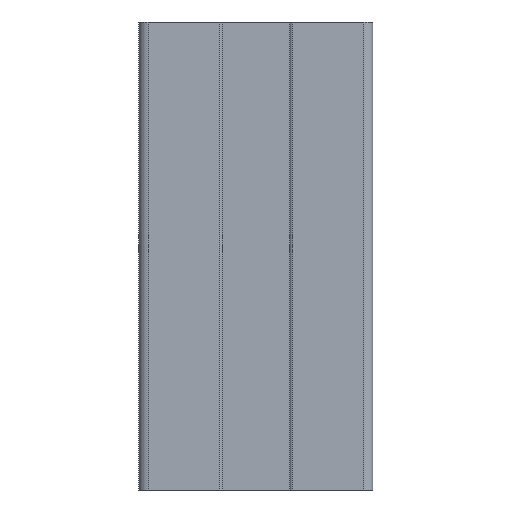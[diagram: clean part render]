
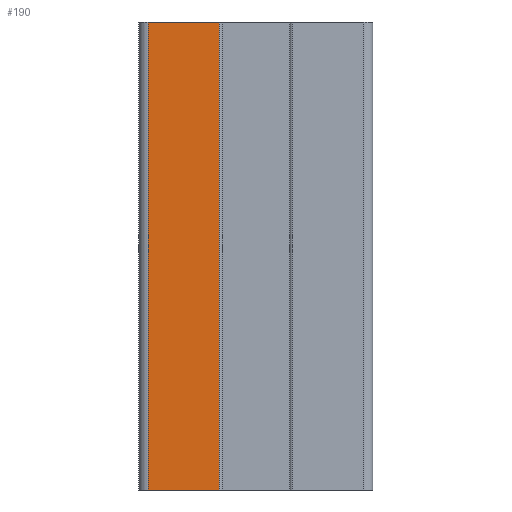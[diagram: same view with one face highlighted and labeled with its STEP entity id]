
A CAD part, left-side view. The second image highlights one B-rep face of the part: STEP entity #190.
In plain terms, the highlighted planar face has unit normal (-1, 0, 0).
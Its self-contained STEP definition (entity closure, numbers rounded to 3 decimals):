
#190=ADVANCED_FACE('',(#477),#478,.F.);
#477=FACE_OUTER_BOUND('',#870,.T.);
#478=PLANE('',#871);
#870=EDGE_LOOP('',(#1359,#1360,#1361,#1362));
#871=AXIS2_PLACEMENT_3D('',#1363,#1364,#1365);
#1359=ORIENTED_EDGE('',*,*,#2514,.T.);
#1360=ORIENTED_EDGE('',*,*,#2515,.F.);
#1361=ORIENTED_EDGE('',*,*,#2516,.F.);
#1362=ORIENTED_EDGE('',*,*,#2517,.T.);
#1363=CARTESIAN_POINT('',(0.,24.0,50.0));
#1364=DIRECTION('',(1.0,0.0,-0.0));
#1365=DIRECTION('',(0.0,0.0,1.0));
#2514=EDGE_CURVE('',#3078,#3079,#3080,.T.);
#2515=EDGE_CURVE('',#3081,#3079,#3082,.T.);
#2516=EDGE_CURVE('',#3083,#3081,#3084,.T.);
#2517=EDGE_CURVE('',#3083,#3078,#3085,.T.);
#3078=VERTEX_POINT('',#3866);
#3079=VERTEX_POINT('',#3867);
#3080=LINE('',#3868,#3869);
#3081=VERTEX_POINT('',#3870);
#3082=LINE('',#3871,#3872);
#3083=VERTEX_POINT('',#3873);
#3084=LINE('',#3874,#3875);
#3085=LINE('',#3876,#3877);
#3866=CARTESIAN_POINT('',(0.,24.0,0.0));
#3867=CARTESIAN_POINT('',(0.,16.4,0.0));
#3868=CARTESIAN_POINT('',(0.,24.0,0.0));
#3869=VECTOR('',#4724,1.0);
#3870=CARTESIAN_POINT('',(0.,16.4,50.0));
#3871=CARTESIAN_POINT('',(0.,16.4,50.0));
#3872=VECTOR('',#4725,1.0);
#3873=CARTESIAN_POINT('',(0.,24.0,50.0));
#3874=CARTESIAN_POINT('',(0.,24.0,50.0));
#3875=VECTOR('',#4726,1.0);
#3876=CARTESIAN_POINT('',(0.,24.0,50.0));
#3877=VECTOR('',#4727,1.0);
#4724=DIRECTION('',(0.0,-1.0,0.0));
#4725=DIRECTION('',(0.0,0.0,-1.0));
#4726=DIRECTION('',(0.0,-1.0,0.0));
#4727=DIRECTION('',(0.0,0.0,-1.0));
